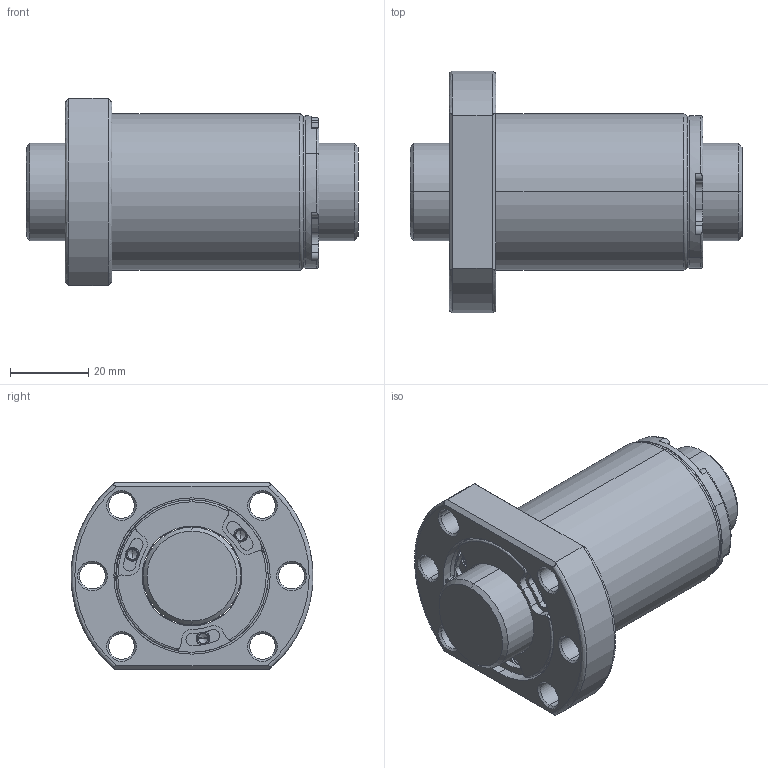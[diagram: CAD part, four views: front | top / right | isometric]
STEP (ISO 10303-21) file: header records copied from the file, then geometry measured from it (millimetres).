
FILE_DESCRIPTION (( 'STEP AP203' ), '1' );
FILE_NAME ('SFSR02525A1D-C.STEP', '2020-06-17T01:03:34', ( '' ), ( '' ), 'SwSTEP 2.0', 'SolidWorks 2013', '' );
FILE_SCHEMA (( 'CONFIG_CONTROL_DESIGN' ));
Length unit declared in the file: millimetre
Products named in the file (1): SFSR02525A1D-C
Bounding box: 85 x 61.8 x 48 mm (x, y, z)
Volume: 99122.4 mm3; surface area: 28965.2 mm2
Topology: 2 solids, 2 shells, 267 faces, 674 edges, 418 vertices
Faces by surface type: cylinder 132, plane 69, cone 52, bspline 14
Entity records: 8940 total; most frequent: CARTESIAN_POINT 2281, DIRECTION 1512, ORIENTED_EDGE 1324, EDGE_CURVE 662, AXIS2_PLACEMENT_3D 636, VERTEX_POINT 418, CIRCLE 382, EDGE_LOOP 304
